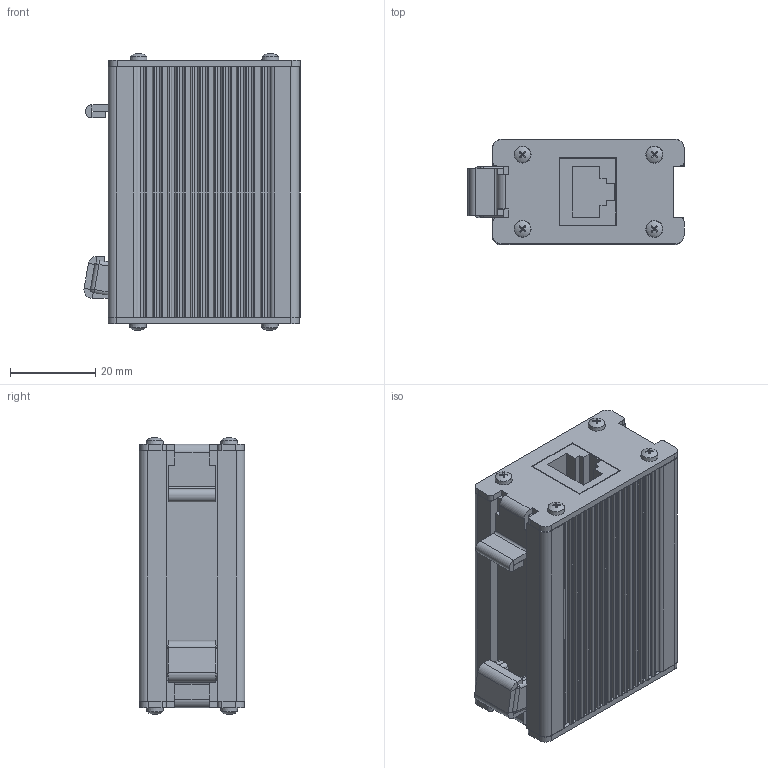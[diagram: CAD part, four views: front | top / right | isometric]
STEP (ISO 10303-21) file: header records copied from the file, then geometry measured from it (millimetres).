
FILE_DESCRIPTION(/* description */ (''),/* implementation_level */ '2;1');
FILE_NAME(/* name */ 'K:\PROJEKTY ROZPRACOVANÉ\MODELY DO KATALOGU\HT\3D - STEP\HT-VDSL.stp',/* time_stamp */ '2022-06-13T07:41:36+02:00',/* author */ ('miko'),/* organization */ (''),/* preprocessor_version */ 'ST-DEVELOPER v18.1',/* originating_system */ 'Autodesk Inventor 2022',/* authorisation */ '');
FILE_SCHEMA (('AUTOMOTIVE_DESIGN { 1 0 10303 214 3 1 1 }'));
Length unit declared in the file: millimetre
Products named in the file (7): HT-VDSL; AL PROFIL; H1-045-00-02-02; H1-045-00-02-03; ISO 7049 - ST 2,2 x 6,5 - C - H; PRUŽNÝ ČLEN; RJ 45 (2)
Assembly tree (15 placements, depth 2):
  HT-VDSL
    AL PROFIL  x2
    H1-045-00-02-02
    H1-045-00-02-03
    ISO 7049 - ST 2,2 x 6,5 - C - H  x8
    PRUŽNÝ ČLEN
    RJ 45 (2)  x2
Bounding box: 50.87 x 24.8 x 65.17 mm (x, y, z)
Volume: 33402.3 mm3; surface area: 36040 mm2
Topology: 15 solids, 15 shells, 760 faces, 2116 edges, 1376 vertices
Faces by surface type: plane 455, cylinder 163, cone 88, torus 34, sphere 20
Full cylindrical faces by diameter (mm): 2.2 x8, 3.2 x8
Entity records: 12425 total; most frequent: CARTESIAN_POINT 2277, ORIENTED_EDGE 2064, DIRECTION 2061, EDGE_CURVE 1032, LINE 763, VECTOR 763, VERTEX_POINT 665, AXIS2_PLACEMENT_3D 649
